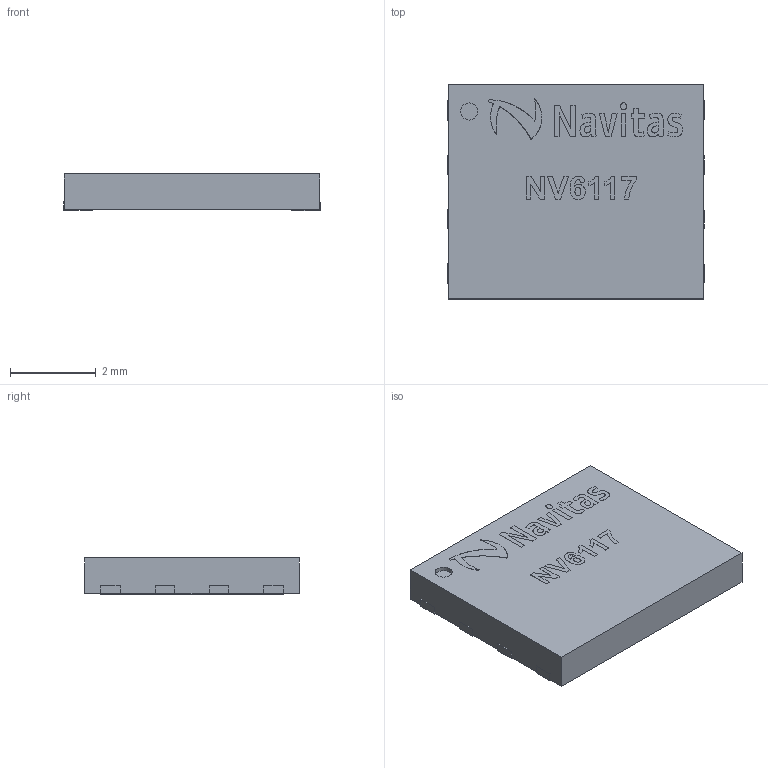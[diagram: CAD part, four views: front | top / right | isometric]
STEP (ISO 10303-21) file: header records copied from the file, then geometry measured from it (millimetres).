
FILE_DESCRIPTION(/* description */ (''),/* implementation_level */ '2;1');
FILE_NAME(/* name */ 'C:/Users/Tom/Documents/NV6117.stp',/* time_stamp */ '2020-03-02T11:24:25-08:00',/* author */ (''),/* organization */ (''),/* preprocessor_version */ 'ST-DEVELOPER v15.2',/* originating_system */ 'Autodesk Translator Framework v2.0.0.5431',/* authorisation */ '');
FILE_SCHEMA (('AUTOMOTIVE_DESIGN { 1 0 10303 214 3 1 1 }'));
Length unit declared in the file: centimetre
Products named in the file (1): NV6117
Bounding box: 6 x 5 x 0.87 mm (x, y, z)
Surface area: 121.9 mm2
Topology: 22 solids, 22 shells, 653 faces, 1825 edges, 1217 vertices
Faces by surface type: bspline 484, plane 168, cylinder 1
Full cylindrical faces by diameter (mm): 0.4 x1
Entity records: 25317 total; most frequent: CARTESIAN_POINT 12641, ORIENTED_EDGE 3646, EDGE_CURVE 1823, VERTEX_POINT 1216, DIRECTION 1197, LINE 853, VECTOR 853, EDGE_LOOP 661
